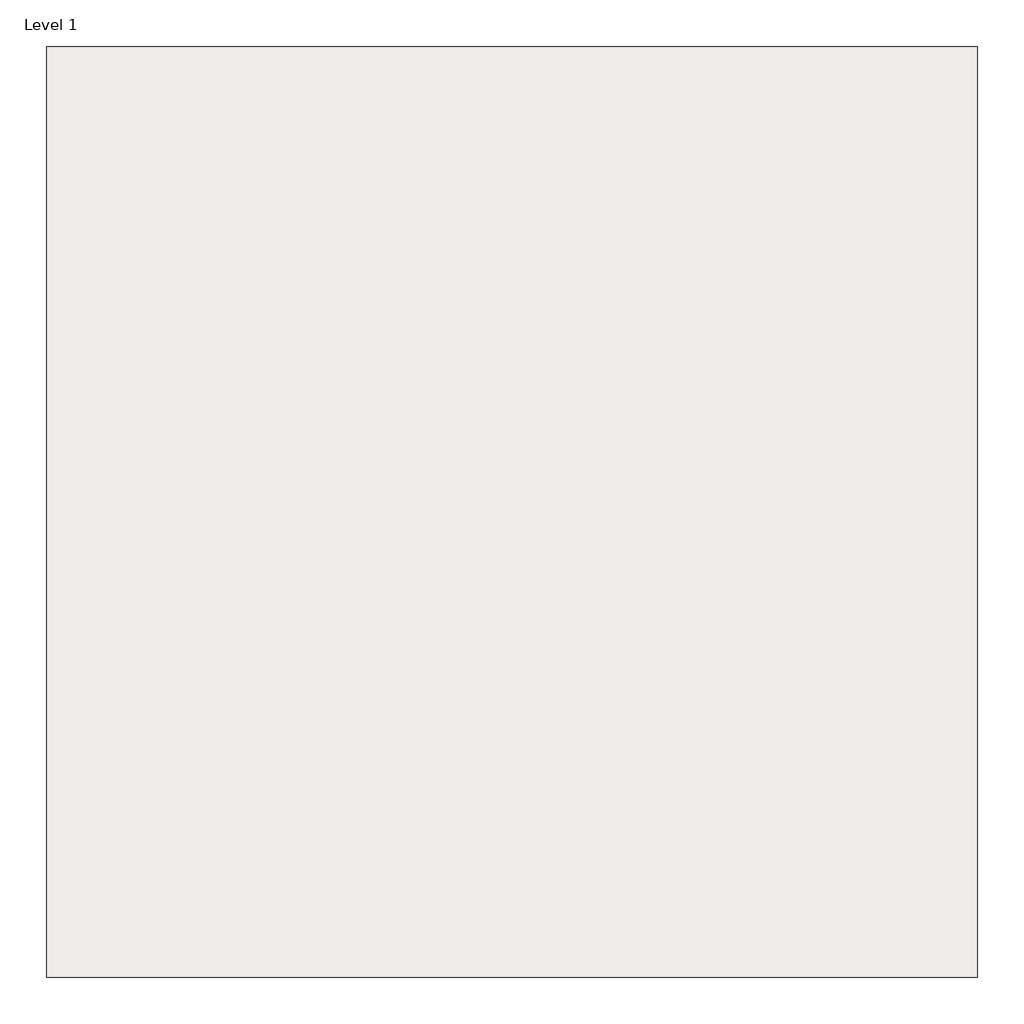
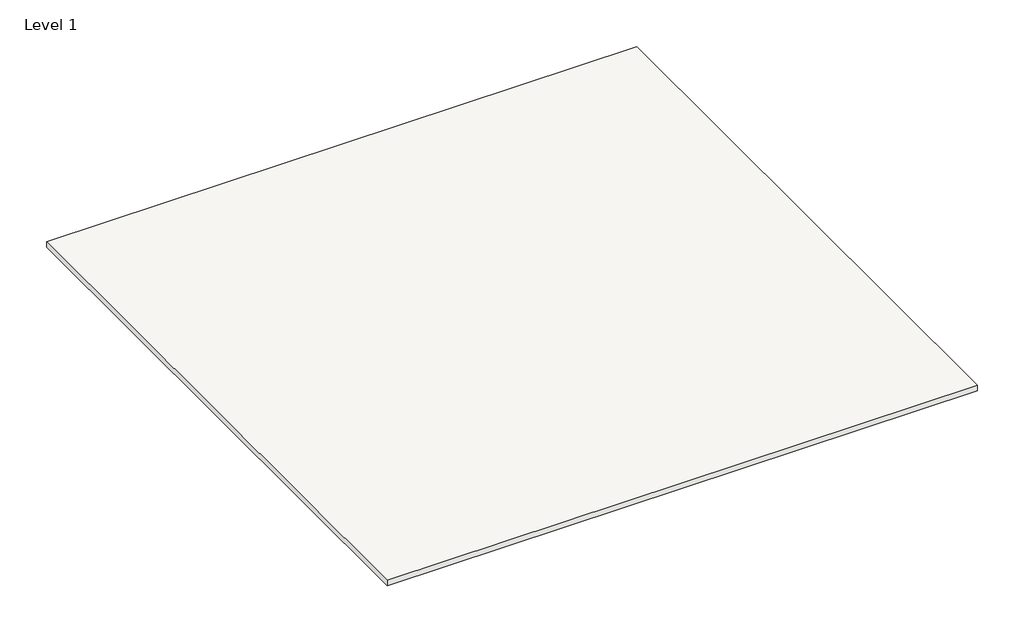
# One storey: 1 covering.
"""IFC4 building model written with IfcOpenShell, lengths in millimetres."""

from ifc_helpers import new_model, si_unit, frame, origin, place, context, project, spatial, polyline, outline, extrude, element, save

model = new_model("IFC4")

# Units and contexts
model_context = context("Model", 3, world=origin())
ifc_project = project(units=[si_unit("LENGTHUNIT", "METRE", prefix="MILLI")], contexts=[model_context])

# Site, building, storey
site = spatial("IfcSite", under=ifc_project)
building = spatial("IfcBuilding", under=site)
storey = spatial("IfcBuildingStorey", under=building, Name="Level 1", Elevation=0.0)

# Covering
placement = place(None, origin())
element("IfcCovering", 1, ObjectType="REVIGRES-PINE_WOOD-DG-29.5x120-MATT RECT", at=placement, inside=storey, context=model_context, shape_type="SweptSolid", body=[
    extrude(outline(polyline([(13078.642714, -1191.9242026), (14078.642714, -1191.9242026), (14078.642714, -2191.9242026), (13078.642714, -2191.9242026), (13078.642714, -1191.9242026)])), frame((0.0, 0.0, -9.8), z_axis=(0.0, 0.0, 1.0), x_axis=(1.0, 0.0, 0.0)), (0.0, 0.0, 1.0), 9.8),
])

save(model, "model.ifc")
